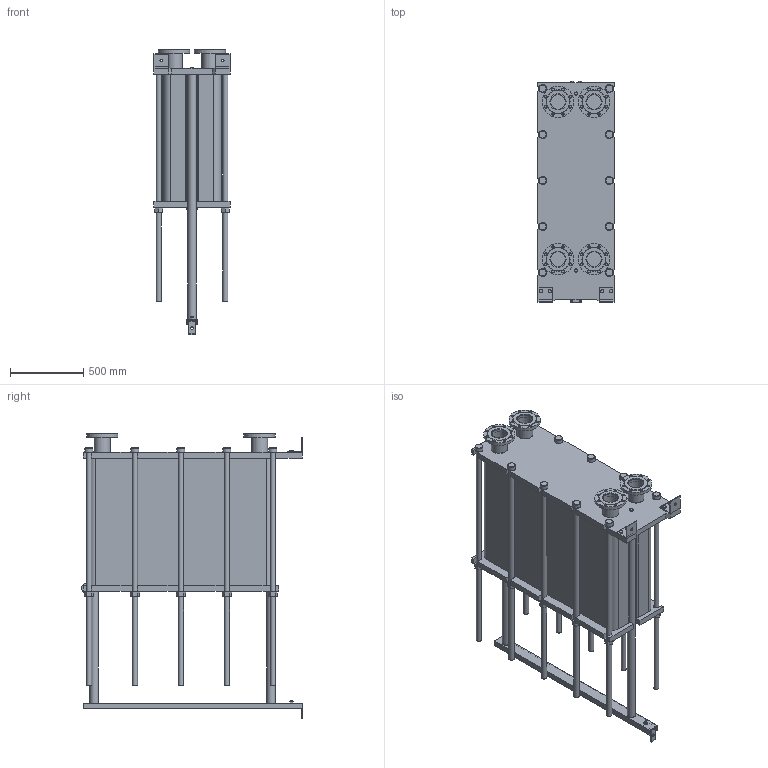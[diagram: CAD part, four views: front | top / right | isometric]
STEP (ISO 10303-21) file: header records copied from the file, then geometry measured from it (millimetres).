
FILE_DESCRIPTION(/* description */ (''),/* implementation_level */ '2;1');
FILE_NAME(/* name */ 'C:\Users\zhuro\Desktop\ENCO\TO\ЭН-04\ЭН-0,5-04-252-1.stp',/* time_stamp */ '2022-06-06T11:06:53+03:00',/* author */ ('zhuro'),/* organization */ (''),/* preprocessor_version */ 'ST-DEVELOPER v18.1',/* originating_system */ 'Autodesk Inventor 2022',/* authorisation */ '');
FILE_SCHEMA (('AUTOMOTIVE_DESIGN { 1 0 10303 214 3 1 1 }'));
Length unit declared in the file: millimetre
Products named in the file (1): ЭН-0,5-04-252-1
Bounding box: 520 x 1510 x 1951 mm (x, y, z)
Volume: 513876176.6 mm3; surface area: 11697756.3 mm2
Topology: 45 solids, 45 shells, 668 faces, 1611 edges, 1048 vertices
Faces by surface type: plane 457, cylinder 166, cone 39, torus 6
Full cylindrical faces by diameter (mm): 8 x4, 10 x2, 16 x8, 18 x35, 36 x25, 40 x2, 42 x1, 45 x4, 54 x10, 57 x2, 60 x10, 68 x2, 100 x4, 110 x8, 215 x4
Entity records: 23607 total; most frequent: CARTESIAN_POINT 7348, DIRECTION 3371, ORIENTED_EDGE 3142, EDGE_CURVE 1571, AXIS2_PLACEMENT_3D 1199, VERTEX_POINT 1044, LINE 973, VECTOR 973
